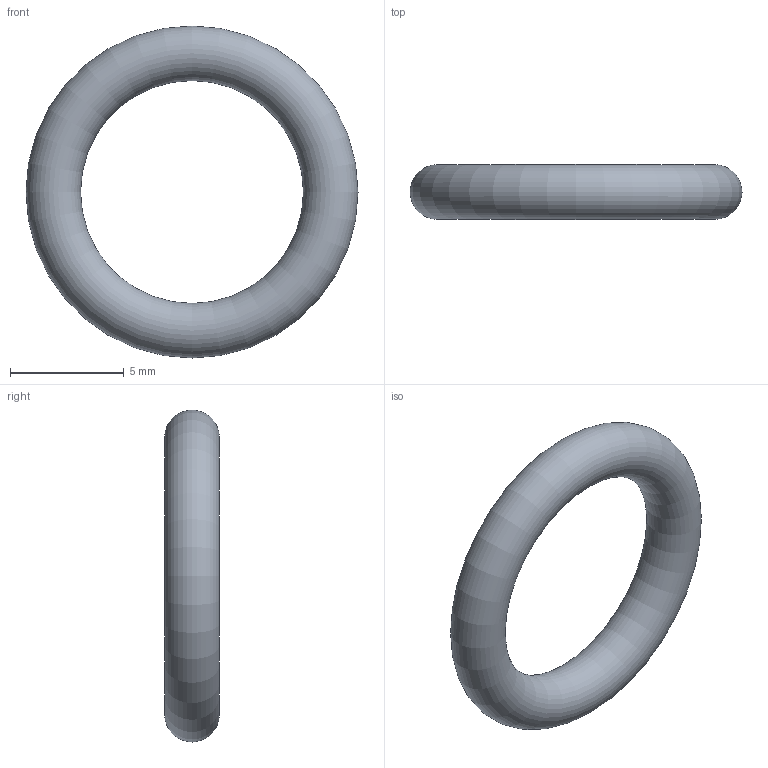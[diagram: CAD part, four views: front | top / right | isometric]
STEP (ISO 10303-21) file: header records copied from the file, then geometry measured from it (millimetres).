
FILE_DESCRIPTION( ( 'STEP AP203' ), '1' );
FILE_NAME( 'C:/Temp/Ganter_Step_05_03_2020/data/3_5/or638/O-Ring OR638-9.80-2.40-70.stp', '2020-03-12T13:44:25', ( 'License CC BY-ND 4.0' ), ( 'CADENAS' ), ' ', 'PARTsolutions', ' ' );
FILE_SCHEMA( ( 'CONFIG_CONTROL_DESIGN' ) );
Length unit declared in the file: millimetre
Products named in the file (1): _O-Ring OR638-9.80-2.40-70
Bounding box: 14.6 x 2.4 x 14.6 mm (x, y, z)
Volume: 173.4 mm3; surface area: 289 mm2
Topology: 1 solids, 1 shells, 1 faces, 2 edges, 1 vertices
Faces by surface type: torus 1
Entity records: 62 total; most frequent: CC_DESIGN_PERSON_AND_ORGANIZATION_ASSIGNMENT 5, PERSON_AND_ORGANIZATION_ROLE 4, DIRECTION 4, CARTESIAN_POINT 3, DATE_TIME_ROLE 2, CC_DESIGN_DATE_AND_TIME_ASSIGNMENT 2, AXIS2_PLACEMENT_3D 2, DIMENSIONAL_EXPONENTS 2
